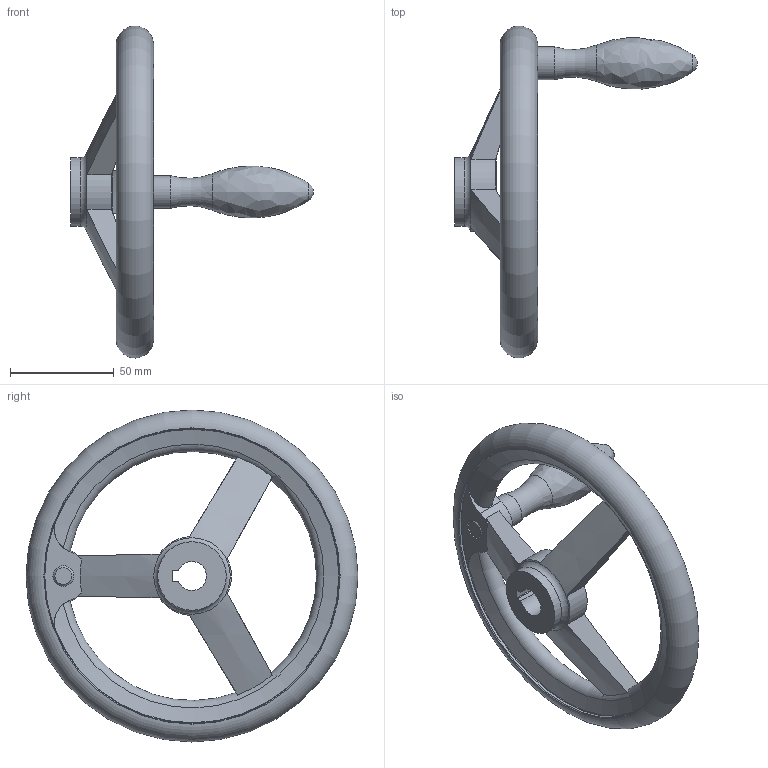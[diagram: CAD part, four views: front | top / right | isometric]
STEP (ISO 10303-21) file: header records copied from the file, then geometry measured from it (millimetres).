
FILE_DESCRIPTION( ( 'STEP AP203' ), '1' );
FILE_NAME( 'C:/Temp/Ganter_Step_05_03_2020/data/1_3/din_950/din_950_k/din_950_k_f/Handwheel DIN 950-GG-160-K14-F.stp', '2020-03-05T10:31:14', ( 'License CC BY-ND 4.0' ), ( 'CADENAS' ), ' ', 'PARTsolutions', ' ' );
FILE_SCHEMA( ( 'CONFIG_CONTROL_DESIGN' ) );
Length unit declared in the file: millimetre
Products named in the file (1): _Handwheel DIN 950-GG-160-K14-F
Bounding box: 117 x 159.99 x 159.99 mm (x, y, z)
Volume: 173604.7 mm3; surface area: 43549 mm2
Topology: 1 solids, 1 shells, 47 faces, 133 edges, 85 vertices
Faces by surface type: cylinder 15, plane 14, torus 11, cone 5, sphere 1, bspline 1
Full cylindrical faces by diameter (mm): 10 x1, 15.8 x1, 33 x2, 142 x2
Entity records: 1759 total; most frequent: CARTESIAN_POINT 631, DIRECTION 218, ORIENTED_EDGE 212, EDGE_CURVE 106, AXIS2_PLACEMENT_3D 98, VERTEX_POINT 79, EDGE_LOOP 71, FACE_OUTER_BOUND 62
